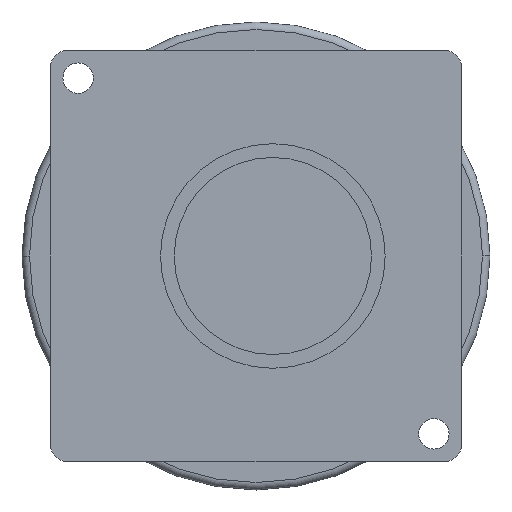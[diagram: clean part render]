
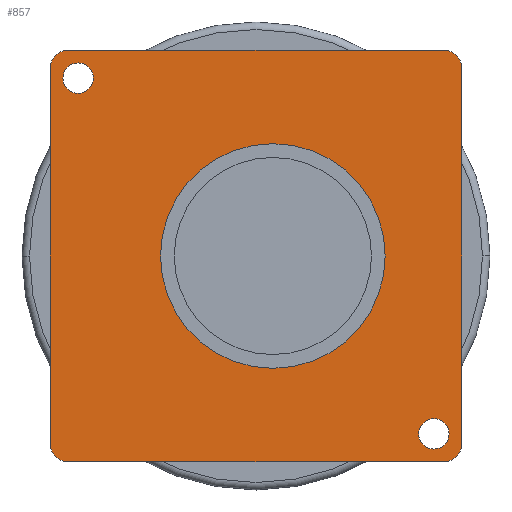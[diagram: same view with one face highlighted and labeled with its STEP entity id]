
A CAD part, front view. The second image highlights one B-rep face of the part: STEP entity #857.
In plain terms, the highlighted planar face has unit normal (0, -1, 0).
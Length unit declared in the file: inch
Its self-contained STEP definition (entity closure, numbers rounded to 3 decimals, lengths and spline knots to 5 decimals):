
#7 = EDGE_CURVE ( 'Defeatured_0_11+Defeatured_0_9+Defeatured_0_28+Defeatured_0_27', #4084, #2801, #1496, .T. ) ;
#20 = DIRECTION ( 'NONE',  ( 0., -1., 0. ) ) ;
#69 = DIRECTION ( 'NONE',  ( -1., 0., 0. ) ) ;
#215 = DIRECTION ( 'NONE',  ( 0., 0., -1. ) ) ;
#223 = LINE ( 'NONE', #3297, #646 ) ;
#256 = VERTEX_POINT ( 'NONE', #803 ) ;
#272 = CIRCLE ( 'NONE', #1441, 0.25 ) ;
#308 = ORIENTED_EDGE ( 'NONE', *, *, #4340, .T. ) ;
#327 = CARTESIAN_POINT ( 'NONE',  ( -2.75, -1.715, 2.75 ) ) ;
#371 = EDGE_CURVE ( 'Defeatured_0_34+Defeatured_0_9+Defeatured_0_9+Defeatured_0_9', #1715, #1253, #4302, .T. ) ;
#477 = FACE_BOUND ( 'NONE', #539, .T. ) ;
#539 = EDGE_LOOP ( 'NONE', ( #3942, #308 ) ) ;
#646 = VECTOR ( 'NONE', #4004, 39.37008 ) ;
#666 = CARTESIAN_POINT ( 'NONE',  ( -2.375, -1.715, 2.17188 ) ) ;
#689 = DIRECTION ( 'NONE',  ( 0., -1., 0. ) ) ;
#703 = ORIENTED_EDGE ( 'NONE', *, *, #3253, .F. ) ;
#774 = CARTESIAN_POINT ( 'NONE',  ( 2.375, -1.715, -2.57812 ) ) ;
#790 = CARTESIAN_POINT ( 'NONE',  ( 2.5, -1.715, -2.5 ) ) ;
#803 = CARTESIAN_POINT ( 'NONE',  ( -2.5, -1.715, -2.75 ) ) ;
#834 = FACE_BOUND ( 'NONE', #3407, .T. ) ;
#842 = ORIENTED_EDGE ( 'NONE', *, *, #7, .F. ) ;
#848 = DIRECTION ( 'NONE',  ( -1., 0., 0. ) ) ;
#857 = ADVANCED_FACE ( 'Defeatured_0_9', ( #834, #2928, #477, #1111 ), #1520, .T. ) ;
#889 = CIRCLE ( 'NONE', #3021, 0.20313 ) ;
#896 = CIRCLE ( 'NONE', #2350, 0.25 ) ;
#947 = ORIENTED_EDGE ( 'NONE', *, *, #1918, .F. ) ;
#962 = ORIENTED_EDGE ( 'NONE', *, *, #2770, .F. ) ;
#1044 = DIRECTION ( 'NONE',  ( 0., 1., 0. ) ) ;
#1099 = EDGE_CURVE ( 'Defeatured_0_18+Defeatured_0_9+Defeatured_0_27+Defeatured_0_29', #1584, #3727, #4510, .T. ) ;
#1111 = FACE_OUTER_BOUND ( 'NONE', #1813, .T. ) ;
#1175 = EDGE_CURVE ( 'Defeatured_0_9+Defeatured_0_28+Defeatured_0_11+Defeatured_0_0', #4084, #256, #272, .T. ) ;
#1209 = CARTESIAN_POINT ( 'NONE',  ( -2.75, -1.715, -2.5 ) ) ;
#1253 = VERTEX_POINT ( 'NONE', #666 ) ;
#1254 = CARTESIAN_POINT ( 'NONE',  ( -2.75, -1.715, 2.5 ) ) ;
#1273 = CIRCLE ( 'NONE', #3982, 0.20312 ) ;
#1410 = ORIENTED_EDGE ( 'NONE', *, *, #3892, .F. ) ;
#1418 = DIRECTION ( 'NONE',  ( 0., 0., -1. ) ) ;
#1441 = AXIS2_PLACEMENT_3D ( 'NONE', #3508, #20, #1418 ) ;
#1496 = LINE ( 'NONE', #3227, #1587 ) ;
#1515 = CARTESIAN_POINT ( 'NONE',  ( 2.75, -1.715, -2.5 ) ) ;
#1520 = PLANE ( 'NONE',  #3220 ) ;
#1548 = CARTESIAN_POINT ( 'NONE',  ( 2.5, -1.715, 2.75 ) ) ;
#1559 = CARTESIAN_POINT ( 'NONE',  ( 2.375, -1.715, -2.375 ) ) ;
#1584 = VERTEX_POINT ( 'NONE', #4465 ) ;
#1587 = VECTOR ( 'NONE', #3515, 39.37008 ) ;
#1673 = CARTESIAN_POINT ( 'NONE',  ( 0.225, -1.715, 0. ) ) ;
#1687 = AXIS2_PLACEMENT_3D ( 'NONE', #790, #3952, #2176 ) ;
#1715 = VERTEX_POINT ( 'NONE', #3986 ) ;
#1792 = LINE ( 'NONE', #3656, #4039 ) ;
#1813 = EDGE_LOOP ( 'NONE', ( #2896, #4347, #842, #3222, #2432, #2926, #962, #3662 ) ) ;
#1877 = CARTESIAN_POINT ( 'NONE',  ( 2.5, -1.715, 2.5 ) ) ;
#1918 = EDGE_CURVE ( 'Defeatured_0_34+Defeatured_0_9+Defeatured_0_9+Defeatured_0_9', #1253, #1715, #889, .T. ) ;
#2063 = CARTESIAN_POINT ( 'NONE',  ( -1.275, -1.715, 0. ) ) ;
#2123 = DIRECTION ( 'NONE',  ( 0., -1., 0. ) ) ;
#2128 = CARTESIAN_POINT ( 'NONE',  ( -2.5, -1.715, 2.5 ) ) ;
#2162 = VERTEX_POINT ( 'NONE', #2542 ) ;
#2176 = DIRECTION ( 'NONE',  ( 0., 0., -1. ) ) ;
#2203 = CIRCLE ( 'NONE', #2351, 0.20312 ) ;
#2226 = EDGE_CURVE ( 'Defeatured_0_9+Defeatured_0_29+Defeatured_0_10+Defeatured_0_18', #2162, #3727, #2430, .T. ) ;
#2236 = DIRECTION ( 'NONE',  ( 0., 1., 0. ) ) ;
#2264 = AXIS2_PLACEMENT_3D ( 'NONE', #1877, #3715, #215 ) ;
#2350 = AXIS2_PLACEMENT_3D ( 'NONE', #2128, #3916, #3551 ) ;
#2351 = AXIS2_PLACEMENT_3D ( 'NONE', #1559, #2968, #2674 ) ;
#2353 = DIRECTION ( 'NONE',  ( 0., -1., 0. ) ) ;
#2369 = DIRECTION ( 'NONE',  ( 0., 0., -1. ) ) ;
#2396 = AXIS2_PLACEMENT_3D ( 'NONE', #4467, #2353, #4189 ) ;
#2430 = CIRCLE ( 'NONE', #2264, 0.25 ) ;
#2432 = ORIENTED_EDGE ( 'NONE', *, *, #3418, .F. ) ;
#2542 = CARTESIAN_POINT ( 'NONE',  ( 2.75, -1.715, 2.5 ) ) ;
#2637 = CIRCLE ( 'NONE', #4101, 1.5 ) ;
#2674 = DIRECTION ( 'NONE',  ( 0., 0., -1. ) ) ;
#2687 = VERTEX_POINT ( 'NONE', #3748 ) ;
#2760 = CARTESIAN_POINT ( 'NONE',  ( 2.375, -1.715, -2.375 ) ) ;
#2770 = EDGE_CURVE ( 'Defeatured_0_10+Defeatured_0_9+Defeatured_0_29+Defeatured_0_30', #2162, #4514, #223, .T. ) ;
#2801 = VERTEX_POINT ( 'NONE', #1254 ) ;
#2896 = ORIENTED_EDGE ( 'NONE', *, *, #1099, .F. ) ;
#2921 = EDGE_CURVE ( 'Defeatured_0_9+Defeatured_0_27+Defeatured_0_18+Defeatured_0_11', #1584, #2801, #896, .T. ) ;
#2926 = ORIENTED_EDGE ( 'NONE', *, *, #2979, .T. ) ;
#2928 = FACE_BOUND ( 'NONE', #3857, .T. ) ;
#2933 = CARTESIAN_POINT ( 'NONE',  ( 2.5, -1.715, -2.75 ) ) ;
#2948 = CIRCLE ( 'NONE', #1687, 0.25 ) ;
#2968 = DIRECTION ( 'NONE',  ( 0., -1., 0. ) ) ;
#2979 = EDGE_CURVE ( 'Defeatured_0_9+Defeatured_0_30+Defeatured_0_0+Defeatured_0_10', #3432, #4514, #2948, .T. ) ;
#3021 = AXIS2_PLACEMENT_3D ( 'NONE', #3026, #3743, #2369 ) ;
#3026 = CARTESIAN_POINT ( 'NONE',  ( -2.375, -1.715, 2.375 ) ) ;
#3220 = AXIS2_PLACEMENT_3D ( 'NONE', #3973, #2123, #4406 ) ;
#3222 = ORIENTED_EDGE ( 'NONE', *, *, #1175, .T. ) ;
#3227 = CARTESIAN_POINT ( 'NONE',  ( -2.75, -1.715, 2.75 ) ) ;
#3253 = EDGE_CURVE ( 'Defeatured_0_33+Defeatured_0_9+Defeatured_0_9+Defeatured_0_9', #2687, #3644, #2203, .T. ) ;
#3261 = AXIS2_PLACEMENT_3D ( 'NONE', #1673, #1044, #3477 ) ;
#3275 = VECTOR ( 'NONE', #3828, 39.37008 ) ;
#3297 = CARTESIAN_POINT ( 'NONE',  ( 2.75, -1.715, 2.75 ) ) ;
#3402 = CIRCLE ( 'NONE', #3261, 1.5 ) ;
#3407 = EDGE_LOOP ( 'NONE', ( #1410, #703 ) ) ;
#3418 = EDGE_CURVE ( 'Defeatured_0_0+Defeatured_0_9+Defeatured_0_30+Defeatured_0_28', #3432, #256, #1792, .T. ) ;
#3432 = VERTEX_POINT ( 'NONE', #2933 ) ;
#3477 = DIRECTION ( 'NONE',  ( -1., 0., 0. ) ) ;
#3508 = CARTESIAN_POINT ( 'NONE',  ( -2.5, -1.715, -2.5 ) ) ;
#3515 = DIRECTION ( 'NONE',  ( 0., 0., 1. ) ) ;
#3522 = DIRECTION ( 'NONE',  ( 0., 0., -1. ) ) ;
#3551 = DIRECTION ( 'NONE',  ( 0., 0., -1. ) ) ;
#3644 = VERTEX_POINT ( 'NONE', #774 ) ;
#3656 = CARTESIAN_POINT ( 'NONE',  ( -2.75, -1.715, -2.75 ) ) ;
#3662 = ORIENTED_EDGE ( 'NONE', *, *, #2226, .T. ) ;
#3715 = DIRECTION ( 'NONE',  ( 0., -1., 0. ) ) ;
#3727 = VERTEX_POINT ( 'NONE', #1548 ) ;
#3743 = DIRECTION ( 'NONE',  ( 0., -1., 0. ) ) ;
#3748 = CARTESIAN_POINT ( 'NONE',  ( 2.375, -1.715, -2.17188 ) ) ;
#3828 = DIRECTION ( 'NONE',  ( 1., 0., 0. ) ) ;
#3857 = EDGE_LOOP ( 'NONE', ( #947, #3919 ) ) ;
#3892 = EDGE_CURVE ( 'Defeatured_0_33+Defeatured_0_9+Defeatured_0_9+Defeatured_0_9', #3644, #2687, #1273, .T. ) ;
#3916 = DIRECTION ( 'NONE',  ( 0., -1., 0. ) ) ;
#3919 = ORIENTED_EDGE ( 'NONE', *, *, #371, .F. ) ;
#3942 = ORIENTED_EDGE ( 'NONE', *, *, #4193, .T. ) ;
#3952 = DIRECTION ( 'NONE',  ( 0., -1., 0. ) ) ;
#3973 = CARTESIAN_POINT ( 'NONE',  ( 0., -1.715, 0. ) ) ;
#3982 = AXIS2_PLACEMENT_3D ( 'NONE', #2760, #689, #3522 ) ;
#3986 = CARTESIAN_POINT ( 'NONE',  ( -2.375, -1.715, 2.57813 ) ) ;
#3992 = CARTESIAN_POINT ( 'NONE',  ( 0.225, -1.715, 0. ) ) ;
#4004 = DIRECTION ( 'NONE',  ( 0., 0., -1. ) ) ;
#4039 = VECTOR ( 'NONE', #69, 39.37008 ) ;
#4084 = VERTEX_POINT ( 'NONE', #1209 ) ;
#4101 = AXIS2_PLACEMENT_3D ( 'NONE', #3992, #2236, #848 ) ;
#4189 = DIRECTION ( 'NONE',  ( 0., 0., -1. ) ) ;
#4193 = EDGE_CURVE ( 'Defeatured_0_9+Defeatured_0_32+Defeatured_0_32+Defeatured_0_32', #4251, #4289, #3402, .T. ) ;
#4198 = CARTESIAN_POINT ( 'NONE',  ( 1.725, -1.715, 0. ) ) ;
#4251 = VERTEX_POINT ( 'NONE', #2063 ) ;
#4289 = VERTEX_POINT ( 'NONE', #4198 ) ;
#4302 = CIRCLE ( 'NONE', #2396, 0.20313 ) ;
#4340 = EDGE_CURVE ( 'Defeatured_0_9+Defeatured_0_32+Defeatured_0_32+Defeatured_0_32', #4289, #4251, #2637, .T. ) ;
#4347 = ORIENTED_EDGE ( 'NONE', *, *, #2921, .T. ) ;
#4406 = DIRECTION ( 'NONE',  ( 0., 0., -1. ) ) ;
#4465 = CARTESIAN_POINT ( 'NONE',  ( -2.5, -1.715, 2.75 ) ) ;
#4467 = CARTESIAN_POINT ( 'NONE',  ( -2.375, -1.715, 2.375 ) ) ;
#4510 = LINE ( 'NONE', #327, #3275 ) ;
#4514 = VERTEX_POINT ( 'NONE', #1515 ) ;
